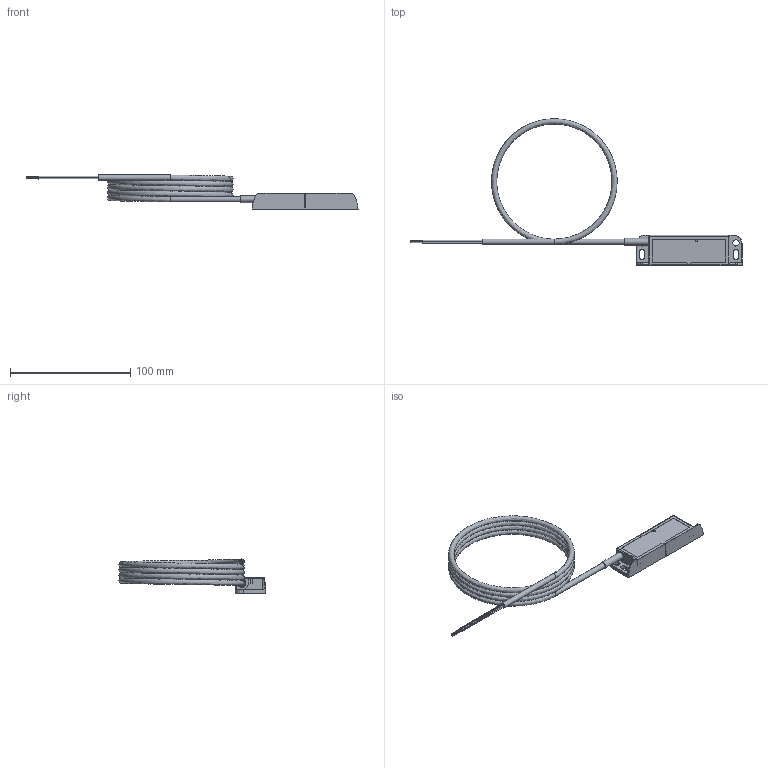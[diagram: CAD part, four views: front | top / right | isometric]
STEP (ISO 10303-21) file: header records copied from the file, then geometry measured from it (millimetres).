
FILE_DESCRIPTION(/* description */ (''),/* implementation_level */ '2;1');
FILE_NAME(/* name */ 'V:/a TO PERSON/Vilius/MC88/Catalogue/CADs/MC88CH2ORA2L.step',/* time_stamp */ '2020-10-27T09:40:50+02:00',/* author */ (''),/* organization */ (''),/* preprocessor_version */ 'ST-DEVELOPER v18.1',/* originating_system */ 'Autodesk Translation Framework v9.3.0.1241',/* authorisation */ '');
FILE_SCHEMA (('AUTOMOTIVE_DESIGN { 1 0 10303 214 3 1 1 }'));
Length unit declared in the file: millimetre
Products named in the file (1): MC88CH2ORA2L
Bounding box: 276 x 121.7 x 28.3 mm (x, y, z)
Volume: 45268.7 mm3; surface area: 36653.2 mm2
Topology: 12 solids, 12 shells, 173 faces, 419 edges, 273 vertices
Faces by surface type: plane 117, cylinder 37, bspline 9, cone 8, sphere 2
Full cylindrical faces by diameter (mm): 0.7 x8, 1.3 x4, 2 x2, 4.4 x3, 5.6 x1, 7 x2
Entity records: 6060 total; most frequent: CARTESIAN_POINT 1821, DIRECTION 841, ORIENTED_EDGE 838, EDGE_CURVE 419, LINE 313, VECTOR 313, VERTEX_POINT 273, AXIS2_PLACEMENT_3D 264
